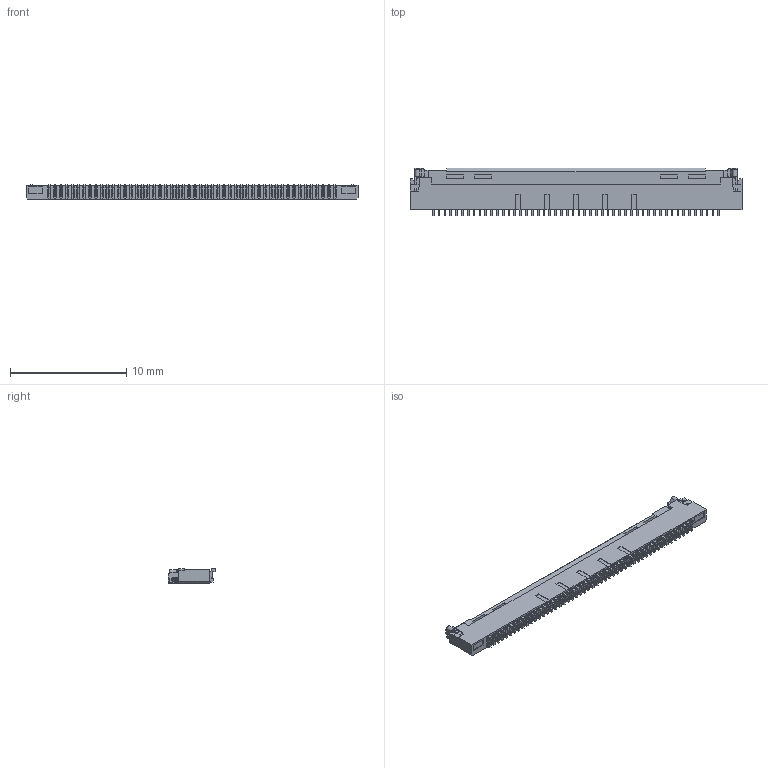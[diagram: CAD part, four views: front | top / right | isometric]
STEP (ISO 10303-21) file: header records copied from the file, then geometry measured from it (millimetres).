
FILE_DESCRIPTION((''),'2;1');
FILE_NAME('S-51695-050XX-XXX','2017-11-03T',('t00382'),(''),'PRO/ENGINEER BY PARAMETRIC TECHNOLOGY CORPORATION, 2011490','PRO/ENGINEER BY PARAMETRIC TECHNOLOGY CORPORATION, 2011490','');
FILE_SCHEMA(('AUTOMOTIVE_DESIGN { 1 0 10303 214 1 1 1 1 }'));
Products named in the file (1): S-51695-050XX-XXX
Bounding box: 28.5 x 4.05 x 1.23 mm (x, y, z)
Volume: 73.5 mm3; surface area: 495 mm2
Topology: 1 solids, 3 shells, 3638 faces, 10831 edges, 7235 vertices
Faces by surface type: plane 2694, cylinder 936, cone 8
Entity records: 146247 total; most frequent: CARTESIAN_POINT 21529, ORIENTED_EDGE 21240, DIRECTION 19978, EDGE_CURVE 10620, VECTOR 8938, LINE 8938, VERTEX_POINT 7021, AXIS2_PLACEMENT_3D 5520
